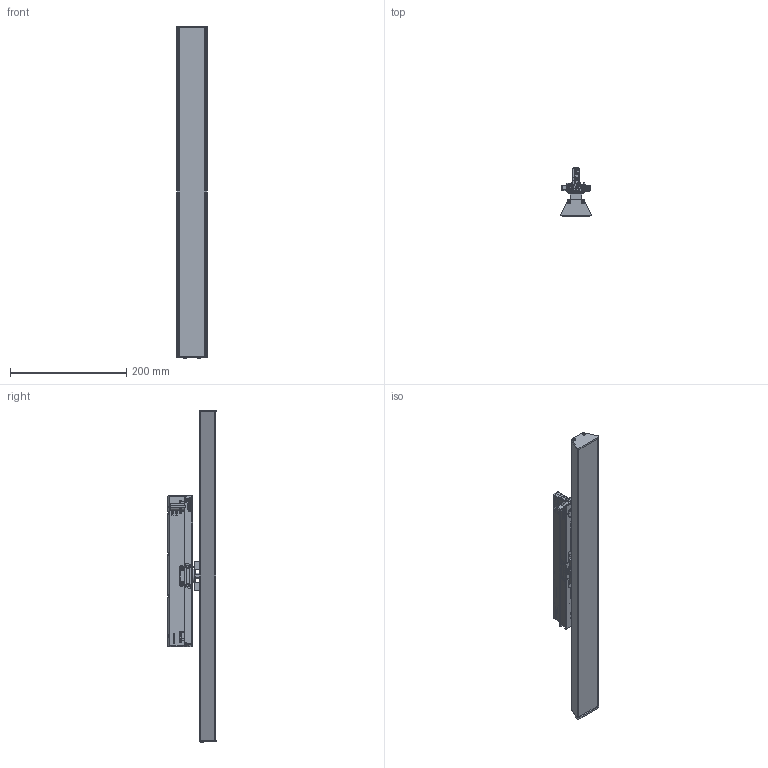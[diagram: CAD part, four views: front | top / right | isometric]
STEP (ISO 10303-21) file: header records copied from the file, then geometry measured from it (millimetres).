
FILE_DESCRIPTION (( 'STEP AP214' ), '1' );
FILE_NAME ('mLight Zelle 2B 570mm Track Module.STEP', '2024-06-04T03:21:54', ( '' ), ( '' ), 'SwSTEP 2.0', 'SolidWorks 2021', '' );
FILE_SCHEMA (( 'AUTOMOTIVE_DESIGN' ));
Length unit declared in the file: millimetre
Products named in the file (8): Tridonic Nipple M10 x 1mm; mLight Zelle 2B 570mm Track Module; Evelo Track adaptor bracket RevC; Tridonic Track Driver LC 40W NFC_White Body; flat head screw_am_M3 x 12mm Philips CSK; Part8^Zelle Linear 3 CCT Track Module; Diffused Module endcap V2_Endcap White; flat head screw_am_M4 x 10mm Philips CSK
Assembly tree (12 placements, depth 2):
  mLight Zelle 2B 570mm Track Module
    Diffused Module endcap V2_Endcap White  x2
    Evelo Track adaptor bracket RevC
    Tridonic Track Driver LC 40W NFC_White Body
    Tridonic Nipple M10 x 1mm
    flat head screw_am_M3 x 12mm Philips CSK  x4
    flat head screw_am_M4 x 10mm Philips CSK  x2
    Part8^Zelle Linear 3 CCT Track Module
Bounding box: 52.2 x 82.9 x 570.1 mm (x, y, z)
Volume: 594969.3 mm3; surface area: 198299.8 mm2
Topology: 11 solids, 24 shells, 5575 faces, 15391 edges, 9785 vertices
Faces by surface type: plane 2539, cylinder 1603, bspline 1049, torus 176, cone 165, sphere 43
Full cylindrical faces by diameter (mm): 3 x4, 3.3 x2, 3.4 x4, 4 x2, 5.5 x4, 8.4 x2
Entity records: 365792 total; most frequent: CARTESIAN_POINT 222724, ORIENTED_EDGE 30315, DIRECTION 17725, EDGE_CURVE 15172, VERTEX_POINT 9671, B_SPLINE_CURVE_WITH_KNOTS 7624, VECTOR 6131, LINE 6131
